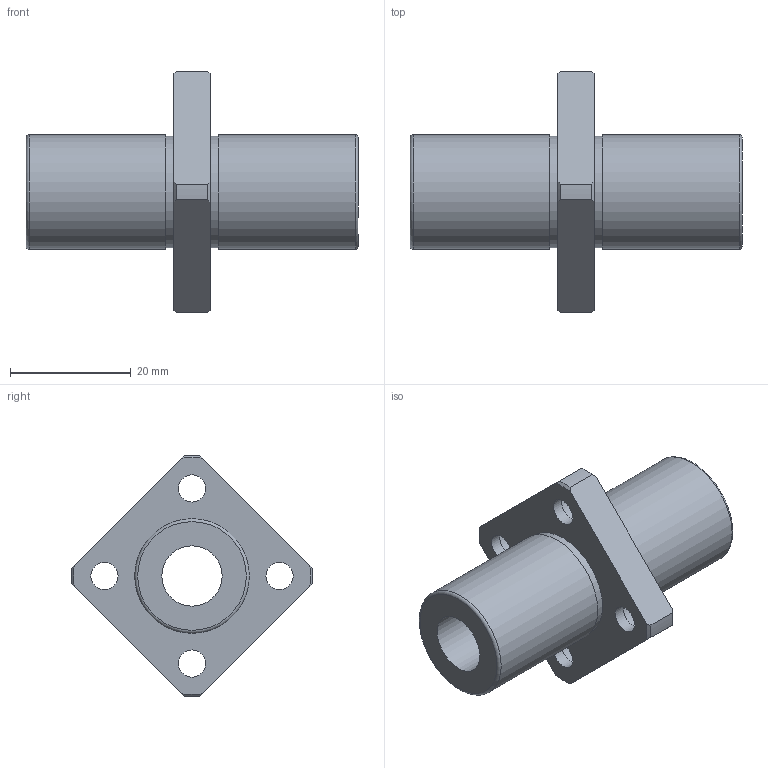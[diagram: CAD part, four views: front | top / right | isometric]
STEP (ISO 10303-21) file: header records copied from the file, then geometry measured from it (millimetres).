
FILE_DESCRIPTION(('STEP AP203'),'1');
FILE_NAME('//192.168.1.1/share/s-4 技術開発/s-4-4_CAD/s-4-4-3_見直し済み/002 修正済み/NFCS-VL/NFCS-VL_TOP/NFCS-10VLUU.step','2022-03-08T04:37:13',(' '),(' '),'Spatial InterOp 3D',' ',' ');
FILE_SCHEMA(('CONFIG_CONTROL_DESIGN'));
Length unit declared in the file: millimetre
Products named in the file (1): 1
Bounding box: 55 x 39.99 x 39.99 mm (x, y, z)
Volume: 14043.5 mm3; surface area: 7370.5 mm2
Topology: 1 solids, 1 shells, 41 faces, 97 edges, 66 vertices
Faces by surface type: cylinder 17, plane 14, cone 8, torus 2
Full cylindrical faces by diameter (mm): 4.5 x4, 7.5 x4, 10 x1, 18.5 x2, 19 x2
Entity records: 1158 total; most frequent: CARTESIAN_POINT 226, DIRECTION 188, ORIENTED_EDGE 152, AXIS2_PLACEMENT_3D 86, EDGE_CURVE 76, EDGE_LOOP 74, VERTEX_POINT 60, FACE_OUTER_BOUND 56
